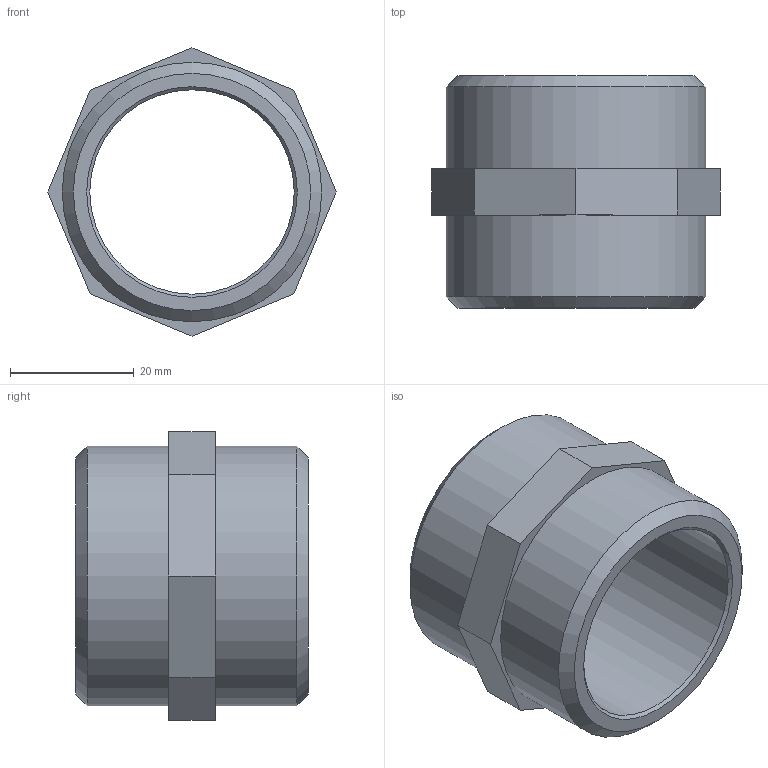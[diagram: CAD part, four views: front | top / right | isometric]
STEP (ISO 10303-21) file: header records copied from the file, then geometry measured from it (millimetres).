
FILE_DESCRIPTION(('STEP AP203'), '1');
FILE_NAME('ÂÐ.753157.016 - VTr.582.N.0007 Íèïïåëü G1 1-4', '2024-07-05T12:10:52', ('Boss'), (''), 'C3D Converter', 'C3D Toolkit', '');
FILE_SCHEMA(('CONFIG_CONTROL_DESIGN'));
Length unit declared in the file: millimetre
Products named in the file (1): ВР.753157.016
Bounding box: 46.54 x 37.5 x 46.54 mm (x, y, z)
Volume: 20359.3 mm3; surface area: 9913.1 mm2
Topology: 1 solids, 1 shells, 19 faces, 41 edges, 26 vertices
Faces by surface type: plane 12, cone 4, cylinder 3
Full cylindrical faces by diameter (mm): 33 x1, 41.91 x2
Entity records: 513 total; most frequent: DIRECTION 84, CARTESIAN_POINT 80, ORIENTED_EDGE 68, EDGE_CURVE 34, AXIS2_PLACEMENT_3D 30, EDGE_LOOP 30, VERTEX_POINT 26, LINE 24
